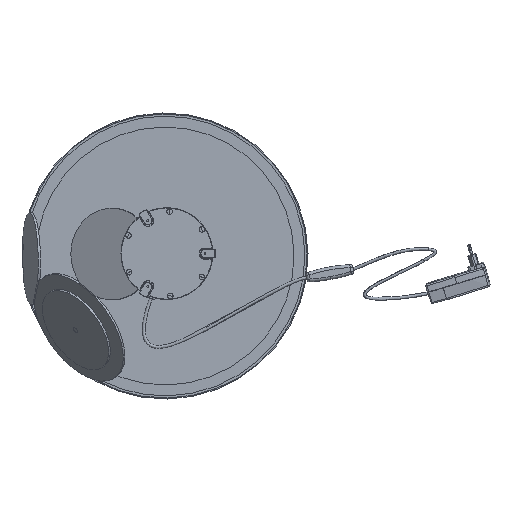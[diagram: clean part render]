
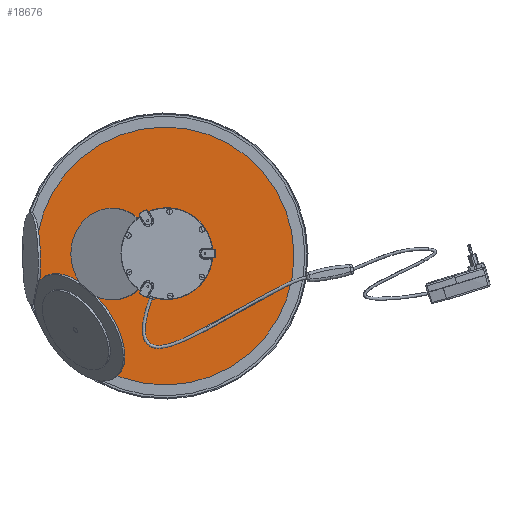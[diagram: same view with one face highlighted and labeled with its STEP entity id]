
A CAD part, front view. The second image highlights one B-rep face of the part: STEP entity #18676.
In plain terms, the highlighted planar face has unit normal (0, -1, -0.001).
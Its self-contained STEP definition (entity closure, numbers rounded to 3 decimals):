
#71 = CARTESIAN_POINT ( 'NONE',  ( -225.684, 0., 24.977 ) ) ;
#248 = CARTESIAN_POINT ( 'NONE',  ( -235.778, 0., 35.071 ) ) ;
#265 = CIRCLE ( 'NONE', #24011, 244. ) ;
#648 = DIRECTION ( 'NONE',  ( 0., 0., 1. ) ) ;
#1016 = LINE ( 'NONE', #12074, #2871 ) ;
#1485 = DIRECTION ( 'NONE',  ( 0., 0., 1. ) ) ;
#1520 = PLANE ( 'NONE',  #18775 ) ;
#2174 = ORIENTED_EDGE ( 'NONE', *, *, #30498, .F. ) ;
#2438 = CARTESIAN_POINT ( 'NONE',  ( 0., 0., -244. ) ) ;
#2702 = EDGE_CURVE ( 'NONE', #27432, #18489, #265, .T. ) ;
#2871 = VECTOR ( 'NONE', #9347, 1000. ) ;
#2970 = VECTOR ( 'NONE', #31867, 1000. ) ;
#3627 = ORIENTED_EDGE ( 'NONE', *, *, #24258, .F. ) ;
#4462 = CARTESIAN_POINT ( 'NONE',  ( 0., 0., 0. ) ) ;
#4822 = LINE ( 'NONE', #26408, #2970 ) ;
#6136 = DIRECTION ( 'NONE',  ( 0., -1., 0. ) ) ;
#7435 = VERTEX_POINT ( 'NONE', #71 ) ;
#7457 = CARTESIAN_POINT ( 'NONE',  ( 0., 0., 0. ) ) ;
#7869 = ORIENTED_EDGE ( 'NONE', *, *, #10657, .F. ) ;
#9138 = DIRECTION ( 'NONE',  ( 1., 0., 0. ) ) ;
#9231 = AXIS2_PLACEMENT_3D ( 'NONE', #4462, #15698, #18422 ) ;
#9347 = DIRECTION ( 'NONE',  ( 1., 0., 0. ) ) ;
#10350 = VERTEX_POINT ( 'NONE', #24634 ) ;
#10451 = EDGE_CURVE ( 'NONE', #18489, #11799, #1016, .T. ) ;
#10657 = EDGE_CURVE ( 'NONE', #10350, #21499, #24892, .T. ) ;
#11106 = AXIS2_PLACEMENT_3D ( 'NONE', #14398, #11863, #34026 ) ;
#11409 = ORIENTED_EDGE ( 'NONE', *, *, #10451, .F. ) ;
#11799 = VERTEX_POINT ( 'NONE', #17176 ) ;
#11863 = DIRECTION ( 'NONE',  ( 0., 1., 0. ) ) ;
#11889 = CARTESIAN_POINT ( 'NONE',  ( -235.778, 0., 24.977 ) ) ;
#12074 = CARTESIAN_POINT ( 'NONE',  ( 0., 0., -35. ) ) ;
#14398 = CARTESIAN_POINT ( 'NONE',  ( 0., 0., 0. ) ) ;
#14449 = VERTEX_POINT ( 'NONE', #31436 ) ;
#14711 = AXIS2_PLACEMENT_3D ( 'NONE', #11889, #30952, #648 ) ;
#14779 = ORIENTED_EDGE ( 'NONE', *, *, #35522, .F. ) ;
#14890 = ORIENTED_EDGE ( 'NONE', *, *, #2702, .F. ) ;
#15646 = CARTESIAN_POINT ( 'NONE',  ( 0., 0., 244. ) ) ;
#15698 = DIRECTION ( 'NONE',  ( 0., 1., 0. ) ) ;
#16624 = EDGE_CURVE ( 'NONE', #14449, #7435, #31792, .T. ) ;
#17167 = ORIENTED_EDGE ( 'NONE', *, *, #23788, .F. ) ;
#17176 = CARTESIAN_POINT ( 'NONE',  ( -235.684, 0., -35. ) ) ;
#17389 = AXIS2_PLACEMENT_3D ( 'NONE', #30267, #6136, #33548 ) ;
#17442 = DIRECTION ( 'NONE',  ( 0., 0., 1. ) ) ;
#18422 = DIRECTION ( 'NONE',  ( 0., 0., 1. ) ) ;
#18489 = VERTEX_POINT ( 'NONE', #19325 ) ;
#18676 = ADVANCED_FACE ( 'NONE', ( #29269 ), #1520, .F. ) ;
#18685 = VECTOR ( 'NONE', #17442, 1000. ) ;
#18775 = AXIS2_PLACEMENT_3D ( 'NONE', #28735, #34027, #9138 ) ;
#19109 = VERTEX_POINT ( 'NONE', #248 ) ;
#19325 = CARTESIAN_POINT ( 'NONE',  ( -241.477, 0., -35. ) ) ;
#20540 = DIRECTION ( 'NONE',  ( 0., 1., 0. ) ) ;
#21499 = VERTEX_POINT ( 'NONE', #15646 ) ;
#21677 = CIRCLE ( 'NONE', #14711, 10.093 ) ;
#22682 = CIRCLE ( 'NONE', #11106, 244. ) ;
#23788 = EDGE_CURVE ( 'NONE', #19109, #10350, #4822, .T. ) ;
#24011 = AXIS2_PLACEMENT_3D ( 'NONE', #7457, #20540, #1485 ) ;
#24258 = EDGE_CURVE ( 'NONE', #21499, #27432, #22682, .T. ) ;
#24634 = CARTESIAN_POINT ( 'NONE',  ( -241.466, 0., 35.071 ) ) ;
#24892 = CIRCLE ( 'NONE', #9231, 244. ) ;
#24938 = EDGE_LOOP ( 'NONE', ( #11409, #14890, #3627, #7869, #17167, #14779, #32301, #2174 ) ) ;
#26408 = CARTESIAN_POINT ( 'NONE',  ( 0., 0., 35.071 ) ) ;
#27432 = VERTEX_POINT ( 'NONE', #2438 ) ;
#28735 = CARTESIAN_POINT ( 'NONE',  ( 0., 0., 0. ) ) ;
#29269 = FACE_OUTER_BOUND ( 'NONE', #24938, .T. ) ;
#30267 = CARTESIAN_POINT ( 'NONE',  ( -235.684, 0., -25. ) ) ;
#30498 = EDGE_CURVE ( 'NONE', #11799, #14449, #31230, .T. ) ;
#30952 = DIRECTION ( 'NONE',  ( 0., -1., 0. ) ) ;
#31230 = CIRCLE ( 'NONE', #17389, 10. ) ;
#31436 = CARTESIAN_POINT ( 'NONE',  ( -225.684, 0., -25. ) ) ;
#31792 = LINE ( 'NONE', #34526, #18685 ) ;
#31867 = DIRECTION ( 'NONE',  ( -1., 0., 0. ) ) ;
#32301 = ORIENTED_EDGE ( 'NONE', *, *, #16624, .F. ) ;
#33548 = DIRECTION ( 'NONE',  ( 0., 0., 1. ) ) ;
#34026 = DIRECTION ( 'NONE',  ( 0., 0., 1. ) ) ;
#34027 = DIRECTION ( 'NONE',  ( 0., 1., 0. ) ) ;
#34526 = CARTESIAN_POINT ( 'NONE',  ( -225.684, 0., 0. ) ) ;
#35522 = EDGE_CURVE ( 'NONE', #7435, #19109, #21677, .T. ) ;
